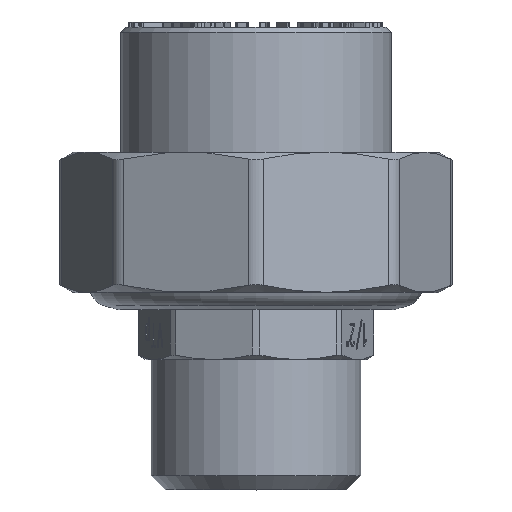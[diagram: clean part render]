
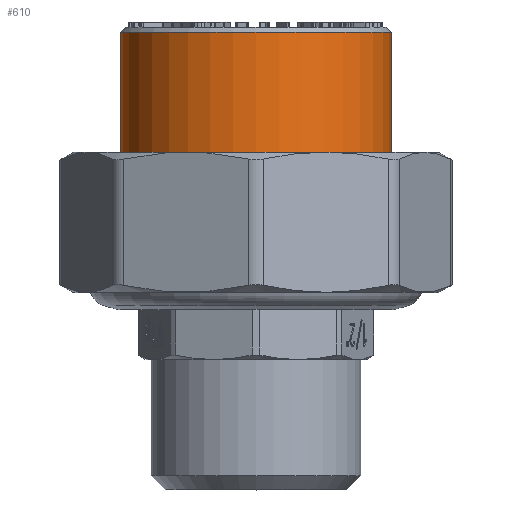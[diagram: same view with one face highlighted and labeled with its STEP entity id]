
A CAD part, top view. The second image highlights one B-rep face of the part: STEP entity #610.
In plain terms, the highlighted cylindrical face has radius 13.5 mm (diameter 27 mm), a full revolution.
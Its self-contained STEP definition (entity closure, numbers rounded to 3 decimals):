
#610=ADVANCED_FACE('',(#4387,#4389),#4391,.T.);
#4387=FACE_OUTER_BOUND('',#4388,.T.);
#4388=EDGE_LOOP('',(#10633));
#4389=FACE_OUTER_BOUND('',#4390,.T.);
#4390=EDGE_LOOP('',(#10634));
#4391=CYLINDRICAL_SURFACE('',#4392,13.5);
#4392=AXIS2_PLACEMENT_3D('',#4393,#4394,#4395);
#4393=CARTESIAN_POINT('',(0.,0.,0.));
#4394=DIRECTION('',(0.,-1.,0.));
#4395=DIRECTION('',(1.,0.,0.));
#10633=ORIENTED_EDGE('',*,*,#14385,.T.);
#10634=ORIENTED_EDGE('',*,*,#14389,.F.);
#14385=EDGE_CURVE('',#17747,#17747,#17748,.T.);
#14389=EDGE_CURVE('',#17754,#17754,#17755,.T.);
#17747=VERTEX_POINT('',#24679);
#17748=CIRCLE('',#24680,13.5);
#17754=VERTEX_POINT('',#24697);
#17755=CIRCLE('',#24698,13.5);
#24679=CARTESIAN_POINT('',(13.5,-0.5,0.));
#24680=AXIS2_PLACEMENT_3D('',#24681,#24682,#24683);
#24681=CARTESIAN_POINT('',(0.,-0.5,0.));
#24682=DIRECTION('',(0.,-1.,0.));
#24683=DIRECTION('',(1.,0.,0.));
#24697=CARTESIAN_POINT('',(13.5,-14.5,0.));
#24698=AXIS2_PLACEMENT_3D('',#24699,#24700,#24701);
#24699=CARTESIAN_POINT('',(0.,-14.5,0.));
#24700=DIRECTION('',(0.,-1.,0.));
#24701=DIRECTION('',(1.,0.,0.));
